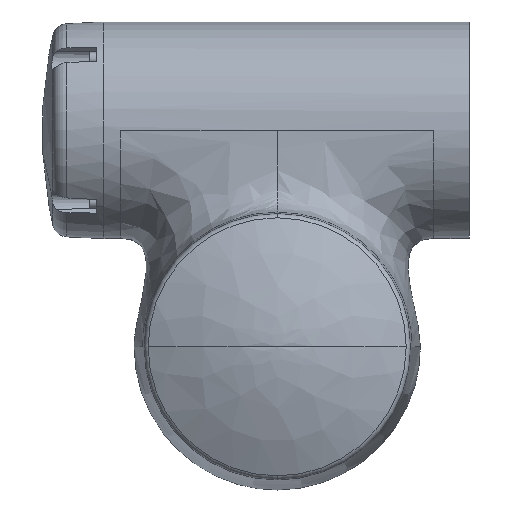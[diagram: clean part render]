
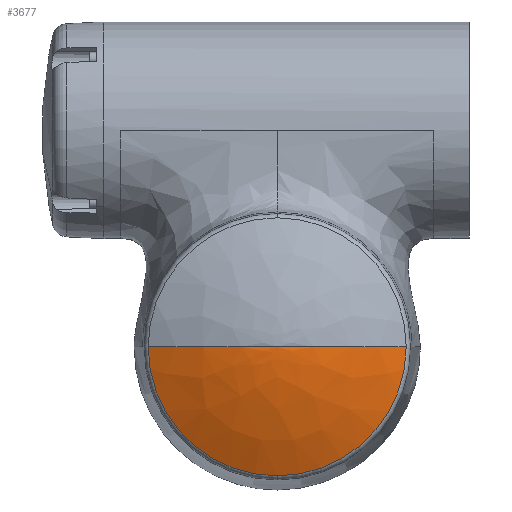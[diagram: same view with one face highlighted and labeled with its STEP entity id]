
A CAD part, front view. The second image highlights one B-rep face of the part: STEP entity #3677.
In plain terms, the highlighted free-form (B-spline) face has degree [2, 3] with [3, 4] control points.
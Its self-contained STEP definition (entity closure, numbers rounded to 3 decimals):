
#42 = CARTESIAN_POINT ( 'NONE',  ( 860., -194.9, 1182.5 ) ) ;
#140 = ORIENTED_EDGE ( 'NONE', *, *, #6598, .T. ) ;
#303 = VERTEX_POINT ( 'NONE', #10816 ) ;
#1010 = CARTESIAN_POINT ( 'NONE',  ( 884.208, -194.9, 1182.5 ) ) ;
#1255 = VERTEX_POINT ( 'NONE', #6170 ) ;
#1328 = ORIENTED_EDGE ( 'NONE', *, *, #2909, .T. ) ;
#1437 = ORIENTED_EDGE ( 'NONE', *, *, #3941, .F. ) ;
#1594 = EDGE_LOOP ( 'NONE', ( #1437, #140, #1328, #6831 ) ) ;
#1614 = CARTESIAN_POINT ( 'NONE',  ( 806.382, -181.029, 1075.264 ) ) ;
#1647 = CIRCLE ( 'NONE', #11148, 53.618 ) ;
#1743 = CARTESIAN_POINT ( 'NONE',  ( 884.208, -194.9, 1134.083 ) ) ;
#1850 = AXIS2_PLACEMENT_3D ( 'NONE', #11333, #9514, #1932 ) ;
#1932 = DIRECTION ( 'NONE',  ( 0., 0., -1. ) ) ;
#2406 = EDGE_CURVE ( 'NONE', #303, #1255, #1647, .T. ) ;
#2523 = CARTESIAN_POINT ( 'NONE',  ( 913.618, -181.029, 1182.5 ) ) ;
#2883 = CARTESIAN_POINT ( 'NONE',  ( 913.618, -181.029, 1182.5 ) ) ;
#2896 = VERTEX_POINT ( 'NONE', #3068 ) ;
#2909 = EDGE_CURVE ( 'NONE', #8700, #303, #5527, .T. ) ;
#3068 = CARTESIAN_POINT ( 'NONE',  ( 860., -194.9, 1182.5 ) ) ;
#3555 = CARTESIAN_POINT ( 'NONE',  ( 860., -194.9, 1182.5 ) ) ;
#3677 = ADVANCED_FACE ( 'NONE', ( #9021 ), #5509, .F. ) ;
#3807 = DIRECTION ( 'NONE',  ( 0., 0., -1. ) ) ;
#3941 = EDGE_CURVE ( 'NONE', #2896, #1255, #5624, .T. ) ;
#4330 = CARTESIAN_POINT ( 'NONE',  ( 806.382, -181.029, 1182.5 ) ) ;
#4533 = CARTESIAN_POINT ( 'NONE',  ( 806.382, -181.029, 1182.5 ) ) ;
#4650 = CARTESIAN_POINT ( 'NONE',  ( 860., -194.9, 1182.5 ) ) ;
#5149 = B_SPLINE_CURVE_WITH_KNOTS ( 'NONE', 2,
 ( #7003, #5366, #4330 ),
 .UNSPECIFIED., .F., .F.,
 ( 3, 3 ),
 ( 0., 0.931 ),
 .UNSPECIFIED. ) ;
#5366 = CARTESIAN_POINT ( 'NONE',  ( 835.792, -194.9, 1182.5 ) ) ;
#5509 =( BOUNDED_SURFACE ( )  B_SPLINE_SURFACE ( 2, 3, ( 
 ( #4650, #3555, #42, #7131 ),
 ( #10969, #1743, #7259, #10841 ),
 ( #2523, #10903, #1614, #4533 ) ),
 .UNSPECIFIED., .F., .F., .F. ) 
 B_SPLINE_SURFACE_WITH_KNOTS ( ( 3, 3 ),
 ( 4, 4 ),
 ( 0., 0.931 ),
 ( 0., 1. ),
 .UNSPECIFIED. ) 
 GEOMETRIC_REPRESENTATION_ITEM ( )  RATIONAL_B_SPLINE_SURFACE ( (
 ( 1., 0.333, 0.333, 1.),
 ( 1., 0.333, 0.333, 1.),
 ( 1., 0.333, 0.333, 1.) ) ) 
 REPRESENTATION_ITEM ( '' )  SURFACE ( )  );
#5527 = CIRCLE ( 'NONE', #1850, 53.618 ) ;
#5624 = B_SPLINE_CURVE_WITH_KNOTS ( 'NONE', 2,
 ( #8588, #1010, #2883 ),
 .UNSPECIFIED., .F., .F.,
 ( 3, 3 ),
 ( 0., 0.931 ),
 .UNSPECIFIED. ) ;
#5682 = CARTESIAN_POINT ( 'NONE',  ( 860., -181.029, 1182.5 ) ) ;
#6170 = CARTESIAN_POINT ( 'NONE',  ( 913.618, -181.029, 1182.5 ) ) ;
#6598 = EDGE_CURVE ( 'NONE', #2896, #8700, #5149, .T. ) ;
#6831 = ORIENTED_EDGE ( 'NONE', *, *, #2406, .T. ) ;
#7003 = CARTESIAN_POINT ( 'NONE',  ( 860., -194.9, 1182.5 ) ) ;
#7131 = CARTESIAN_POINT ( 'NONE',  ( 860., -194.9, 1182.5 ) ) ;
#7259 = CARTESIAN_POINT ( 'NONE',  ( 835.792, -194.9, 1134.083 ) ) ;
#8588 = CARTESIAN_POINT ( 'NONE',  ( 860., -194.9, 1182.5 ) ) ;
#8598 = DIRECTION ( 'NONE',  ( 0., -1., 0. ) ) ;
#8700 = VERTEX_POINT ( 'NONE', #10652 ) ;
#9021 = FACE_OUTER_BOUND ( 'NONE', #1594, .T. ) ;
#9514 = DIRECTION ( 'NONE',  ( 0., -1., 0. ) ) ;
#10652 = CARTESIAN_POINT ( 'NONE',  ( 806.382, -181.029, 1182.5 ) ) ;
#10816 = CARTESIAN_POINT ( 'NONE',  ( 860., -181.029, 1128.882 ) ) ;
#10841 = CARTESIAN_POINT ( 'NONE',  ( 835.792, -194.9, 1182.5 ) ) ;
#10903 = CARTESIAN_POINT ( 'NONE',  ( 913.618, -181.029, 1075.264 ) ) ;
#10969 = CARTESIAN_POINT ( 'NONE',  ( 884.208, -194.9, 1182.5 ) ) ;
#11148 = AXIS2_PLACEMENT_3D ( 'NONE', #5682, #8598, #3807 ) ;
#11333 = CARTESIAN_POINT ( 'NONE',  ( 860., -181.029, 1182.5 ) ) ;
